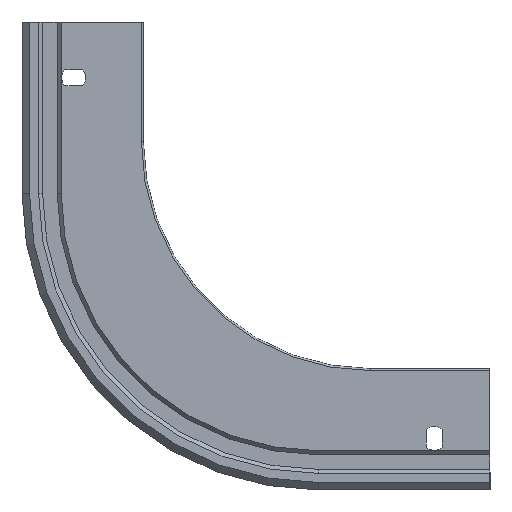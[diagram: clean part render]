
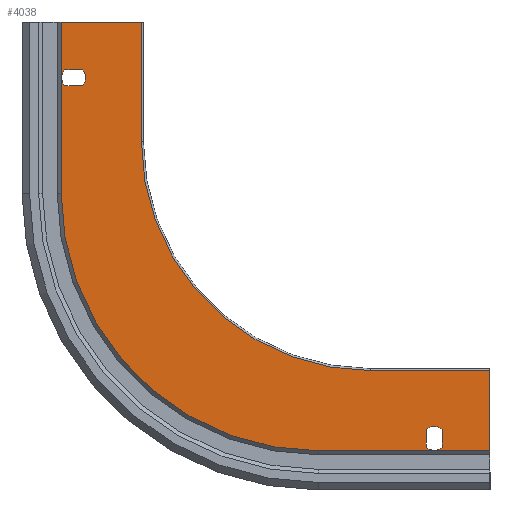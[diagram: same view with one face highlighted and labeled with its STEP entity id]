
A CAD part, left-side view. The second image highlights one B-rep face of the part: STEP entity #4038.
In plain terms, the highlighted planar face has unit normal (-1, 0, 0).
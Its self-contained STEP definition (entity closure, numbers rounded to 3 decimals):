
#8 = EDGE_LOOP ( 'NONE', ( #4460, #3519, #92, #3454, #1228 ) ) ;
#92 = ORIENTED_EDGE ( 'NONE', *, *, #2192, .T. ) ;
#109 = DIRECTION ( 'NONE',  ( 0., 0., -1. ) ) ;
#111 = CARTESIAN_POINT ( 'NONE',  ( 0., 0., 0. ) ) ;
#196 = DIRECTION ( 'NONE',  ( 0., -1., 0. ) ) ;
#253 = FACE_BOUND ( 'NONE', #936, .T. ) ;
#258 = CARTESIAN_POINT ( 'NONE',  ( 0., 175.2, -155.2 ) ) ;
#435 = DIRECTION ( 'NONE',  ( 0., 1., 0. ) ) ;
#440 = CARTESIAN_POINT ( 'NONE',  ( 0., 0., -191.2 ) ) ;
#532 = EDGE_CURVE ( 'NONE', #4159, #1689, #3286, .T. ) ;
#652 = ORIENTED_EDGE ( 'NONE', *, *, #1915, .F. ) ;
#655 = ORIENTED_EDGE ( 'NONE', *, *, #922, .T. ) ;
#731 = VERTEX_POINT ( 'NONE', #2150 ) ;
#735 = EDGE_CURVE ( 'NONE', #2368, #4658, #1771, .T. ) ;
#904 = AXIS2_PLACEMENT_3D ( 'NONE', #1332, #2894, #946 ) ;
#922 = EDGE_CURVE ( 'NONE', #2555, #2368, #4607, .T. ) ;
#933 = CARTESIAN_POINT ( 'NONE',  ( 0., 32., 0. ) ) ;
#936 = EDGE_LOOP ( 'NONE', ( #3505, #655, #5013, #4475 ) ) ;
#946 = DIRECTION ( 'NONE',  ( 0., 0., -1. ) ) ;
#986 = AXIS2_PLACEMENT_3D ( 'NONE', #3329, #4909, #4180 ) ;
#1011 = DIRECTION ( 'NONE',  ( 1., 0., 0. ) ) ;
#1050 = DIRECTION ( 'NONE',  ( 0., 0., -1. ) ) ;
#1059 = EDGE_CURVE ( 'NONE', #731, #1509, #1236, .T. ) ;
#1087 = CIRCLE ( 'NONE', #3967, 6. ) ;
#1102 = LINE ( 'NONE', #4661, #1503 ) ;
#1169 = DIRECTION ( 'NONE',  ( -1., 0., 0. ) ) ;
#1209 = LINE ( 'NONE', #2774, #4978 ) ;
#1211 = EDGE_CURVE ( 'NONE', #2750, #4908, #2302, .T. ) ;
#1226 = CARTESIAN_POINT ( 'NONE',  ( 0., 175.2, -215.2 ) ) ;
#1228 = ORIENTED_EDGE ( 'NONE', *, *, #1625, .T. ) ;
#1233 = LINE ( 'NONE', #3989, #1675 ) ;
#1236 = CIRCLE ( 'NONE', #986, 129.531 ) ;
#1332 = CARTESIAN_POINT ( 'NONE',  ( 0., 28., -6. ) ) ;
#1356 = CARTESIAN_POINT ( 'NONE',  ( 0., 174.2, -215.2 ) ) ;
#1480 = ORIENTED_EDGE ( 'NONE', *, *, #2417, .F. ) ;
#1503 = VECTOR ( 'NONE', #3154, 1000. ) ;
#1509 = VERTEX_POINT ( 'NONE', #2213 ) ;
#1561 = ORIENTED_EDGE ( 'NONE', *, *, #2345, .F. ) ;
#1586 = VECTOR ( 'NONE', #2859, 1000. ) ;
#1625 = EDGE_CURVE ( 'NONE', #2437, #2705, #3129, .T. ) ;
#1639 = EDGE_LOOP ( 'NONE', ( #1561, #652, #1933, #1739, #1979, #1480, #2352, #1646 ) ) ;
#1646 = ORIENTED_EDGE ( 'NONE', *, *, #3640, .F. ) ;
#1660 = VECTOR ( 'NONE', #3304, 1000. ) ;
#1675 = VECTOR ( 'NONE', #435, 1000. ) ;
#1689 = VERTEX_POINT ( 'NONE', #3113 ) ;
#1696 = VERTEX_POINT ( 'NONE', #4671 ) ;
#1739 = ORIENTED_EDGE ( 'NONE', *, *, #4807, .T. ) ;
#1743 = VECTOR ( 'NONE', #2966, 1000. ) ;
#1771 = LINE ( 'NONE', #2945, #4938 ) ;
#1792 = CARTESIAN_POINT ( 'NONE',  ( 0., 213.672, -183.2 ) ) ;
#1915 = EDGE_CURVE ( 'NONE', #731, #2149, #2259, .T. ) ;
#1933 = ORIENTED_EDGE ( 'NONE', *, *, #1059, .T. ) ;
#1959 = DIRECTION ( 'NONE',  ( 0., 0., -1. ) ) ;
#1979 = ORIENTED_EDGE ( 'NONE', *, *, #2415, .F. ) ;
#2065 = LINE ( 'NONE', #933, #1586 ) ;
#2149 = VERTEX_POINT ( 'NONE', #4338 ) ;
#2150 = CARTESIAN_POINT ( 'NONE',  ( 0., 86., 0.331 ) ) ;
#2192 = EDGE_CURVE ( 'NONE', #1689, #3851, #1102, .T. ) ;
#2213 = CARTESIAN_POINT ( 'NONE',  ( 0., 215.531, -129.2 ) ) ;
#2259 = LINE ( 'NONE', #3728, #3458 ) ;
#2302 = CIRCLE ( 'NONE', #2955, 115.2 ) ;
#2345 = EDGE_CURVE ( 'NONE', #2149, #1696, #2816, .T. ) ;
#2352 = ORIENTED_EDGE ( 'NONE', *, *, #1211, .F. ) ;
#2368 = VERTEX_POINT ( 'NONE', #1792 ) ;
#2405 = EDGE_CURVE ( 'NONE', #3851, #2437, #1087, .T. ) ;
#2415 = EDGE_CURVE ( 'NONE', #3939, #4836, #2608, .T. ) ;
#2417 = EDGE_CURVE ( 'NONE', #4908, #3939, #2529, .T. ) ;
#2437 = VERTEX_POINT ( 'NONE', #4182 ) ;
#2450 = DIRECTION ( 'NONE',  ( 0., 1., 0. ) ) ;
#2529 = LINE ( 'NONE', #258, #1660 ) ;
#2555 = VERTEX_POINT ( 'NONE', #5094 ) ;
#2608 = LINE ( 'NONE', #1356, #1743 ) ;
#2620 = EDGE_CURVE ( 'NONE', #2705, #4159, #2065, .T. ) ;
#2705 = VERTEX_POINT ( 'NONE', #3585 ) ;
#2736 = CARTESIAN_POINT ( 'NONE',  ( 0., 60., -155.2 ) ) ;
#2750 = VERTEX_POINT ( 'NONE', #4458 ) ;
#2774 = CARTESIAN_POINT ( 'NONE',  ( 0., 215.531, -129.2 ) ) ;
#2816 = LINE ( 'NONE', #111, #4372 ) ;
#2859 = DIRECTION ( 'NONE',  ( 0., 0., 1. ) ) ;
#2894 = DIRECTION ( 'NONE',  ( 1., 0., 0. ) ) ;
#2901 = VECTOR ( 'NONE', #2450, 1000. ) ;
#2935 = FACE_BOUND ( 'NONE', #8, .T. ) ;
#2945 = CARTESIAN_POINT ( 'NONE',  ( 0., 0., -183.2 ) ) ;
#2955 = AXIS2_PLACEMENT_3D ( 'NONE', #2736, #1169, #4675 ) ;
#2966 = DIRECTION ( 'NONE',  ( 0., 1., 0. ) ) ;
#2969 = VERTEX_POINT ( 'NONE', #4253 ) ;
#3034 = CARTESIAN_POINT ( 'NONE',  ( 0., 0., 0. ) ) ;
#3062 = DIRECTION ( 'NONE',  ( 1., 0., 0. ) ) ;
#3110 = DIRECTION ( 'NONE',  ( 1., 0., 0. ) ) ;
#3113 = CARTESIAN_POINT ( 'NONE',  ( 0., 24., -1.528 ) ) ;
#3129 = CIRCLE ( 'NONE', #4444, 6. ) ;
#3154 = DIRECTION ( 'NONE',  ( 0., 0., -1. ) ) ;
#3286 = CIRCLE ( 'NONE', #904, 6. ) ;
#3304 = DIRECTION ( 'NONE',  ( 0., 0., -1. ) ) ;
#3329 = CARTESIAN_POINT ( 'NONE',  ( 0., 86., -129.2 ) ) ;
#3355 = DIRECTION ( 'NONE',  ( 1., 0., 0. ) ) ;
#3380 = DIRECTION ( 'NONE',  ( 0., 0., -1. ) ) ;
#3403 = PLANE ( 'NONE',  #4641 ) ;
#3454 = ORIENTED_EDGE ( 'NONE', *, *, #2405, .T. ) ;
#3458 = VECTOR ( 'NONE', #196, 1000. ) ;
#3505 = ORIENTED_EDGE ( 'NONE', *, *, #4267, .T. ) ;
#3519 = ORIENTED_EDGE ( 'NONE', *, *, #532, .T. ) ;
#3574 = CARTESIAN_POINT ( 'NONE',  ( 0., 204.728, -183.2 ) ) ;
#3585 = CARTESIAN_POINT ( 'NONE',  ( 0., 32., -10.472 ) ) ;
#3603 = LINE ( 'NONE', #440, #2901 ) ;
#3640 = EDGE_CURVE ( 'NONE', #1696, #2750, #1233, .T. ) ;
#3664 = CARTESIAN_POINT ( 'NONE',  ( 0., 209.2, -187.2 ) ) ;
#3728 = CARTESIAN_POINT ( 'NONE',  ( 0., 86., 0.331 ) ) ;
#3760 = DIRECTION ( 'NONE',  ( 0., 0., -1. ) ) ;
#3851 = VERTEX_POINT ( 'NONE', #4787 ) ;
#3939 = VERTEX_POINT ( 'NONE', #1226 ) ;
#3967 = AXIS2_PLACEMENT_3D ( 'NONE', #4884, #3355, #3380 ) ;
#3989 = CARTESIAN_POINT ( 'NONE',  ( 0., 0., -40. ) ) ;
#4038 = ADVANCED_FACE ( 'NONE', ( #2935, #253, #4905 ), #3403, .F. ) ;
#4121 = CARTESIAN_POINT ( 'NONE',  ( 0., 28., -6. ) ) ;
#4149 = AXIS2_PLACEMENT_3D ( 'NONE', #4299, #3110, #1959 ) ;
#4159 = VERTEX_POINT ( 'NONE', #5090 ) ;
#4180 = DIRECTION ( 'NONE',  ( 0., 0., 1. ) ) ;
#4182 = CARTESIAN_POINT ( 'NONE',  ( 0., 28., -12. ) ) ;
#4230 = CIRCLE ( 'NONE', #4149, 6. ) ;
#4253 = CARTESIAN_POINT ( 'NONE',  ( 0., 204.728, -191.2 ) ) ;
#4267 = EDGE_CURVE ( 'NONE', #2969, #2555, #3603, .T. ) ;
#4299 = CARTESIAN_POINT ( 'NONE',  ( 0., 209.2, -187.2 ) ) ;
#4338 = CARTESIAN_POINT ( 'NONE',  ( 0., 0., 0.331 ) ) ;
#4372 = VECTOR ( 'NONE', #4571, 1000. ) ;
#4444 = AXIS2_PLACEMENT_3D ( 'NONE', #4121, #3062, #5032 ) ;
#4458 = CARTESIAN_POINT ( 'NONE',  ( 0., 60., -40. ) ) ;
#4460 = ORIENTED_EDGE ( 'NONE', *, *, #2620, .T. ) ;
#4475 = ORIENTED_EDGE ( 'NONE', *, *, #4583, .T. ) ;
#4520 = DIRECTION ( 'NONE',  ( 0., -1., 0. ) ) ;
#4553 = CARTESIAN_POINT ( 'NONE',  ( 0., 175.2, -155.2 ) ) ;
#4571 = DIRECTION ( 'NONE',  ( 0., 0., -1. ) ) ;
#4583 = EDGE_CURVE ( 'NONE', #4658, #2969, #4230, .T. ) ;
#4607 = CIRCLE ( 'NONE', #5112, 6. ) ;
#4641 = AXIS2_PLACEMENT_3D ( 'NONE', #3034, #1011, #3760 ) ;
#4658 = VERTEX_POINT ( 'NONE', #3574 ) ;
#4661 = CARTESIAN_POINT ( 'NONE',  ( 0., 24., 0. ) ) ;
#4671 = CARTESIAN_POINT ( 'NONE',  ( 0., 0., -40. ) ) ;
#4675 = DIRECTION ( 'NONE',  ( 0., 0., 1. ) ) ;
#4787 = CARTESIAN_POINT ( 'NONE',  ( 0., 24., -10.472 ) ) ;
#4807 = EDGE_CURVE ( 'NONE', #1509, #4836, #1209, .T. ) ;
#4836 = VERTEX_POINT ( 'NONE', #4892 ) ;
#4854 = DIRECTION ( 'NONE',  ( 1., 0., 0. ) ) ;
#4884 = CARTESIAN_POINT ( 'NONE',  ( 0., 28., -6. ) ) ;
#4892 = CARTESIAN_POINT ( 'NONE',  ( 0., 215.531, -215.2 ) ) ;
#4905 = FACE_OUTER_BOUND ( 'NONE', #1639, .T. ) ;
#4908 = VERTEX_POINT ( 'NONE', #4553 ) ;
#4909 = DIRECTION ( 'NONE',  ( -1., 0., 0. ) ) ;
#4938 = VECTOR ( 'NONE', #4520, 1000. ) ;
#4978 = VECTOR ( 'NONE', #1050, 1000. ) ;
#5013 = ORIENTED_EDGE ( 'NONE', *, *, #735, .T. ) ;
#5032 = DIRECTION ( 'NONE',  ( 0., 0., -1. ) ) ;
#5090 = CARTESIAN_POINT ( 'NONE',  ( 0., 32., -1.528 ) ) ;
#5094 = CARTESIAN_POINT ( 'NONE',  ( 0., 213.672, -191.2 ) ) ;
#5112 = AXIS2_PLACEMENT_3D ( 'NONE', #3664, #4854, #109 ) ;
